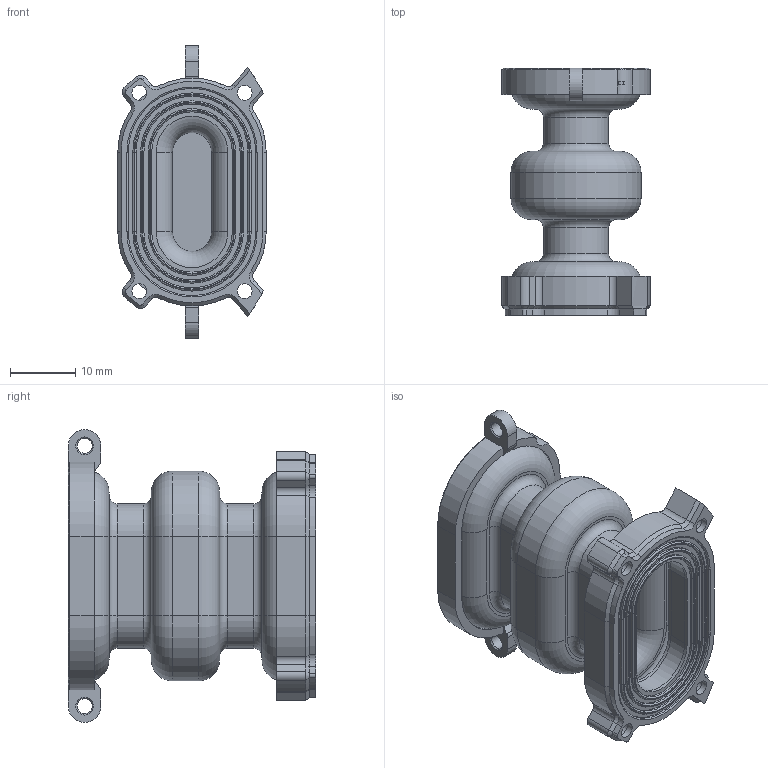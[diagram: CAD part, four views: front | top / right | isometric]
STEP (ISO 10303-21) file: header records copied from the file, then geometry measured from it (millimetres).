
FILE_DESCRIPTION(/* description */ (''),/* implementation_level */ '2;1');
FILE_NAME(/* name */ 'cast_bellow_assembly.stp',/* time_stamp */ '2025-08-17T17:17:35+02:00',/* author */ ('MehdiBelhadj'),/* organization */ (''),/* preprocessor_version */ 'ST-DEVELOPER v20.1',/* originating_system */ 'Autodesk Inventor 2026',/* authorisation */ '');
FILE_SCHEMA (('AUTOMOTIVE_DESIGN { 1 0 10303 214 3 1 1 }'));
Length unit declared in the file: millimetre
Products named in the file (6): balg_2; balg_haut_2; balg_plattform_zu; cast_bellow_lower_platform_Assembly; balg_plattform_offen; bellow_Seal
Assembly tree (5 placements, depth 3):
  balg_2
    balg_haut_2
    balg_plattform_zu
    cast_bellow_lower_platform_Assembly
      balg_plattform_offen
      bellow_Seal
Bounding box: 22.8 x 38 x 45.03 mm (x, y, z)
Volume: 9844.8 mm3; surface area: 12878.6 mm2
Topology: 4 solids, 4 shells, 374 faces, 904 edges, 558 vertices
Faces by surface type: cylinder 170, plane 126, torus 46, cone 32
Full cylindrical faces by diameter (mm): 2.3 x10
Entity records: 11215 total; most frequent: DIRECTION 2102, CARTESIAN_POINT 1859, ORIENTED_EDGE 1808, EDGE_CURVE 904, AXIS2_PLACEMENT_3D 817, VERTEX_POINT 558, LINE 468, VECTOR 468
